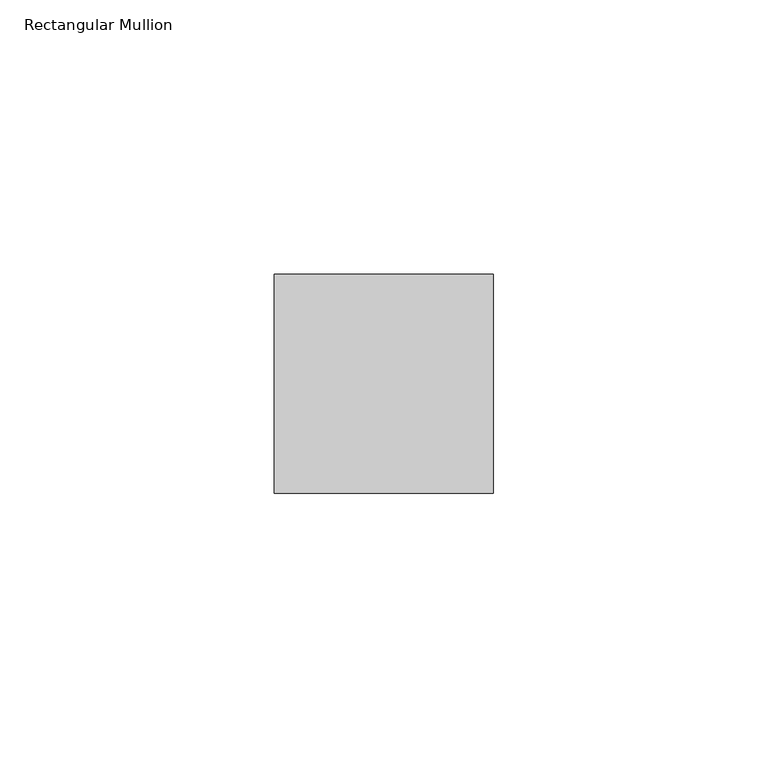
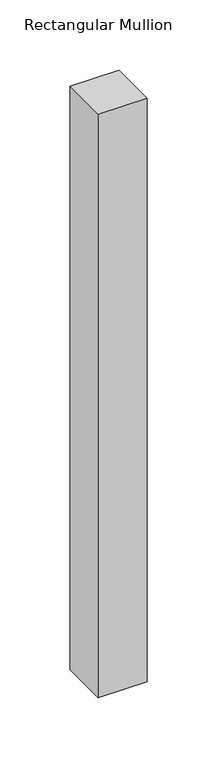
"""IFC4 building model written with IfcOpenShell, lengths in millimetres: member geometry, Rectangular Mullion : Danpal_NM_MiddleH-Mullion."""

import ifcopenshell
import ifcopenshell.guid

model = None  # the IFC model being written
_history = None  # IfcOwnerHistory: only IFC2X3 demands one
_inside = {}  # id of a spatial element -> (the spatial element, [elements in it])
_under = {}  # id of a project, library or spatial element -> (it, [spatial elements below it])
_declared = {}  # id of a project -> (the project, [libraries it declares])
_typed = {}  # id of a type object -> (the type object, [elements of that type])
_made_of = {}  # id of a material, layer set ... -> (it, [elements and type objects made of it])


def new_model(schema):
    """Start an empty IFC model of exactly this schema.

    Asked for "IFC4X3", IfcOpenShell would pick the latest addendum, in which some entities
    have other attributes; the version numbers below select the first issue.
    IFC2X3 requires an IfcOwnerHistory on every rooted entity: one is made here for all.
    """
    global model, _history
    if schema == "IFC4X3":
        model = ifcopenshell.file(schema_version=(4, 3, 0, 0))
    else:
        model = ifcopenshell.file(schema=schema)
    _inside.clear()
    _under.clear()
    _declared.clear()
    _typed.clear()
    _made_of.clear()
    _history = None
    if model.schema == "IFC2X3":
        org = make("IfcOrganization", Name="unknown")
        user = make(
            "IfcPersonAndOrganization",
            ThePerson=make("IfcPerson", FamilyName="unknown"),
            TheOrganization=org,
        )
        app = make(
            "IfcApplication",
            ApplicationDeveloper=org,
            Version="unknown",
            ApplicationFullName="unknown",
            ApplicationIdentifier="unknown",
        )
        _history = make(
            "IfcOwnerHistory",
            OwningUser=user,
            OwningApplication=app,
            ChangeAction="ADDED",
            CreationDate=0,
        )
    return model


def make(cls, **values):
    """One entity of the class cls with the attributes given. An attribute that is None is left unset."""
    return model.create_entity(
        cls, **{name: value for name, value in values.items() if value is not None}
    )


def rooted(cls, **values):
    """An entity with a GlobalId (a new one), such as an element, a storey or a relation."""
    return make(cls, GlobalId=ifcopenshell.guid.new(), OwnerHistory=_history, **values)


def si_unit(unit_type, name, prefix=None):
    """IfcSIUnit, for example si_unit("LENGTHUNIT", "METRE", prefix="MILLI")."""
    return make("IfcSIUnit", UnitType=unit_type, Prefix=prefix, Name=name)


def assignment(units):
    """IfcUnitAssignment: the units of a project."""
    return None if units is None else make("IfcUnitAssignment", Units=units)


def point(xyz):
    """IfcCartesianPoint."""
    return None if xyz is None else make("IfcCartesianPoint", Coordinates=xyz)


def direction(xyz):
    """IfcDirection."""
    return None if xyz is None else make("IfcDirection", DirectionRatios=xyz)


def frame(location, z_axis=None, x_axis=None):
    """IfcAxis2Placement3D, a coordinate frame: its origin and axes. An axis left out is left unset."""
    return make(
        "IfcAxis2Placement3D",
        Location=point(location),
        Axis=direction(z_axis),
        RefDirection=direction(x_axis),
    )


def origin():
    """The frame at (0, 0, 0) with its axes left unset."""
    return frame((0.0, 0.0, 0.0))


def place(relative_to, where):
    """IfcLocalPlacement: puts the frame where relative to a parent placement (None: the world)."""
    return make(
        "IfcLocalPlacement", PlacementRelTo=relative_to, RelativePlacement=where
    )


def context(
    kind, dimensions, precision=None, world=None, true_north=None, identifier=None
):
    """IfcGeometricRepresentationContext, for example the 3D "Model" context."""
    return make(
        "IfcGeometricRepresentationContext",
        ContextIdentifier=identifier,
        ContextType=kind,
        CoordinateSpaceDimension=dimensions,
        Precision=precision,
        WorldCoordinateSystem=world,
        TrueNorth=true_north,
    )


def project(units=None, contexts=None):
    """IfcProject with its units and contexts."""
    return rooted(
        "IfcProject",
        Name="project",
        RepresentationContexts=contexts,
        UnitsInContext=assignment(units),
    )


def spatial(cls, under=None, at=None, **own):
    """A site, building, storey or space (cls), placed at a placement, below another one or the project."""
    s = rooted(cls, ObjectPlacement=at, **own)
    if under is not None:
        _under.setdefault(under.id(), (under, []))[1].append(s)
    return s


def polyline(points):
    """IfcPolyline through the points."""
    return make("IfcPolyline", Points=[point(p) for p in points])


def outline(outer, holes=None, kind="AREA"):
    """IfcArbitraryClosedProfileDef: a profile drawn as a closed curve; with holes, ...WithVoids."""
    if holes is None:
        return make("IfcArbitraryClosedProfileDef", ProfileType=kind, OuterCurve=outer)
    return make(
        "IfcArbitraryProfileDefWithVoids",
        ProfileType=kind,
        OuterCurve=outer,
        InnerCurves=holes,
    )


def extrude(swept, where, along, depth):
    """IfcExtrudedAreaSolid: the profile swept, set in the frame where, extruded along a direction by depth."""
    return make(
        "IfcExtrudedAreaSolid",
        SweptArea=swept,
        Position=where,
        ExtrudedDirection=direction(along),
        Depth=depth,
    )


def shape(context_of_items, identifier, shape_type, items):
    """IfcShapeRepresentation: the items that make up one representation, for example the "Body"."""
    return make(
        "IfcShapeRepresentation",
        ContextOfItems=context_of_items,
        RepresentationIdentifier=identifier,
        RepresentationType=shape_type,
        Items=items,
    )


def source(mapping_origin, context_of_items, identifier, shape_type, items):
    """IfcRepresentationMap: a shape defined once, which mapped items show again and again."""
    return make(
        "IfcRepresentationMap",
        MappingOrigin=mapping_origin,
        MappedRepresentation=shape(context_of_items, identifier, shape_type, items),
    )


def transform(
    local_origin,
    x_axis=None,
    y_axis=None,
    z_axis=None,
    scale=None,
    scale2=None,
    scale3=None,
    uniform=True,
):
    """IfcCartesianTransformationOperator3D, or its non-uniform kind. x_axis, y_axis, z_axis: its Axis1, 2, 3."""
    if uniform:
        return make(
            "IfcCartesianTransformationOperator3D",
            Axis1=direction(x_axis),
            Axis2=direction(y_axis),
            LocalOrigin=point(local_origin),
            Scale=scale,
            Axis3=direction(z_axis),
        )
    return make(
        "IfcCartesianTransformationOperator3DnonUniform",
        Axis1=direction(x_axis),
        Axis2=direction(y_axis),
        LocalOrigin=point(local_origin),
        Scale=scale,
        Axis3=direction(z_axis),
        Scale2=scale2,
        Scale3=scale3,
    )


def mapped(mapping_source, mapping_target):
    """IfcMappedItem: shows the shape of a source again, moved by a transform."""
    return make(
        "IfcMappedItem", MappingSource=mapping_source, MappingTarget=mapping_target
    )


def made_of(thing, what):
    """Note that an element or type object is made of a material, layer set ...; save() writes the relation."""
    if what is not None:
        _made_of.setdefault(what.id(), (what, []))[1].append(thing)
    return thing


def element(
    cls,
    number,
    at=None,
    inside=None,
    cuts=None,
    type_object=None,
    material=None,
    context=None,
    identifier="Body",
    shape_type=None,
    held_by="IfcProductDefinitionShape",
    body=None,
    shapes=None,
    **own,
):
    """One element of the class cls, such as IfcWall. Its Tag is "e" and its number.

    at: its placement. inside: the storey or other place that contains it. cuts: it is an
    opening in that element (IfcRelVoidsElement). A single representation is given by context,
    identifier, shape_type and body (its items); several are given by shapes. held_by: the class
    of the entity that holds the representations. save() writes the other relations.
    """
    e = rooted(cls, Tag="e%d" % number, ObjectPlacement=at, **own)
    if body is not None:
        shapes = [shape(context, identifier, shape_type, body)]
    if shapes is not None:
        e.Representation = make(held_by, Representations=shapes)
    if inside is not None:
        _inside.setdefault(inside.id(), (inside, []))[1].append(e)
    if cuts is not None:
        rooted(
            "IfcRelVoidsElement", RelatingBuildingElement=cuts, RelatedOpeningElement=e
        )
    if type_object is not None:
        _typed.setdefault(type_object.id(), (type_object, []))[1].append(e)
    return made_of(e, material)


def aggregate(whole, parts):
    """IfcRelAggregates: a whole, such as a stair, and the parts it consists of."""
    return rooted("IfcRelAggregates", RelatingObject=whole, RelatedObjects=parts)


def save(model, path):
    """Write the relations noted so far, then the file.

    IfcRelAggregates (storeys below a building ...), IfcRelContainedInSpatialStructure (elements
    in a storey), IfcRelDefinesByType, IfcRelAssociatesMaterial and IfcRelDeclares: one each for
    every whole, place, type object, material and project.
    """
    for whole, parts in _under.values():
        aggregate(whole, parts)
    for where, things in _inside.values():
        rooted(
            "IfcRelContainedInSpatialStructure",
            RelatedElements=things,
            RelatingStructure=where,
        )
    for kind, things in _typed.values():
        rooted("IfcRelDefinesByType", RelatedObjects=things, RelatingType=kind)
    for what, things in _made_of.values():
        rooted("IfcRelAssociatesMaterial", RelatedObjects=things, RelatingMaterial=what)
    for by, libraries in _declared.values():
        rooted("IfcRelDeclares", RelatingContext=by, RelatedDefinitions=libraries)
    model.write(path)


def rectangular_mullion_4a3f3de7(model_context):
    return source(origin(), model_context, "Body", "SweptSolid", [
        extrude(outline(polyline([(0.0, 108.6621721), (0.0, 68.6621721), (-40.0, 68.6621721), (-40.0, 108.6621721), (0.0, 108.6621721)])), frame((0.0, 0.0, -506.3852426), z_axis=(0.0, 0.0, 1.0), x_axis=(1.0, 0.0, 0.0)), (0.0, 0.0, 1.0), 506.3852426),
    ])


if __name__ == "__main__":
    model = new_model("IFC4")
    model_context = context("Model", 3, world=origin())
    ifc_project = project(units=[si_unit("LENGTHUNIT", "METRE", prefix="MILLI")], contexts=[model_context])
    site = spatial("IfcSite", under=ifc_project)
    building = spatial("IfcBuilding", under=site)
    placement = place(None, origin())
    rectangular_mullion_shape = rectangular_mullion_4a3f3de7(model_context)
    element("IfcMember", 1, ObjectType="Rectangular Mullion : Danpal_NM_MiddleH-Mullion", at=placement, inside=building, context=model_context, shape_type="MappedRepresentation", body=[
        mapped(rectangular_mullion_shape, transform((0.0, 0.0, 0.0), x_axis=(1.0, 0.0, 0.0), y_axis=(0.0, 1.0, 0.0), z_axis=(0.0, 0.0, 1.0))),
    ])
    save(model, "model.ifc")
